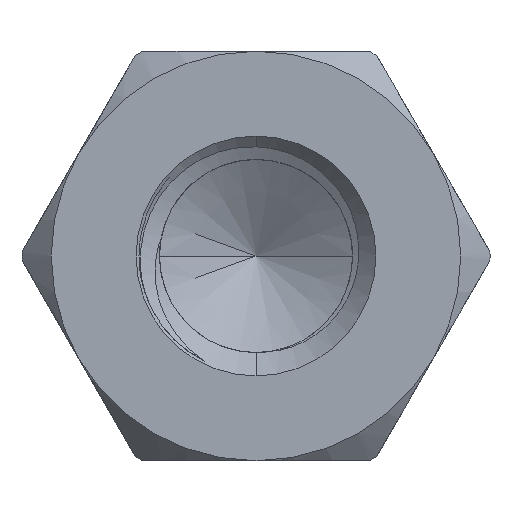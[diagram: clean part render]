
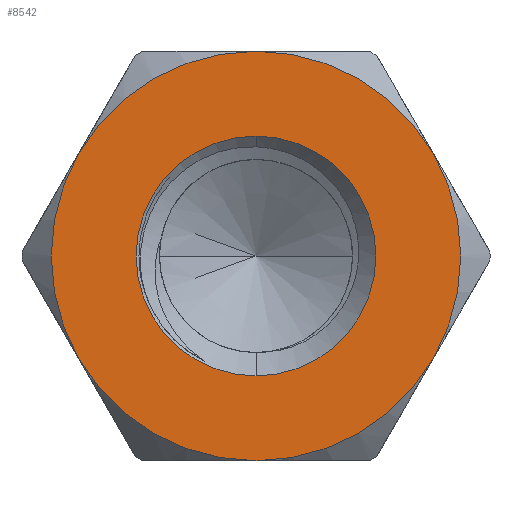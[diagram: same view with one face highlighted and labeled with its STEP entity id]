
A CAD part, front view. The second image highlights one B-rep face of the part: STEP entity #8542.
In plain terms, the highlighted planar face has unit normal (0, -1, 0).
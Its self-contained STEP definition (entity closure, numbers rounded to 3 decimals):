
#112 = EDGE_CURVE ( 'NONE', #772, #9792, #4046, .T. ) ;
#492 = CARTESIAN_POINT ( 'NONE',  ( -3.031, 0., -1.75 ) ) ;
#641 = VERTEX_POINT ( 'NONE', #1994 ) ;
#772 = VERTEX_POINT ( 'NONE', #3155 ) ;
#799 = CARTESIAN_POINT ( 'NONE',  ( 3.031, 0., -1.75 ) ) ;
#1050 = CARTESIAN_POINT ( 'NONE',  ( 0., 0., 0. ) ) ;
#1069 = EDGE_CURVE ( 'NONE', #3714, #772, #2153, .T. ) ;
#1330 = ORIENTED_EDGE ( 'NONE', *, *, #3862, .T. ) ;
#1585 = FACE_OUTER_BOUND ( 'NONE', #8614, .T. ) ;
#1620 = DIRECTION ( 'NONE',  ( 0., -1., 0. ) ) ;
#1624 = AXIS2_PLACEMENT_3D ( 'NONE', #4197, #5796, #6621 ) ;
#1692 = VERTEX_POINT ( 'NONE', #5052 ) ;
#1866 = CIRCLE ( 'NONE', #8171, 2.05 ) ;
#1994 = CARTESIAN_POINT ( 'NONE',  ( 0., 0., -2.05 ) ) ;
#2047 = VERTEX_POINT ( 'NONE', #6458 ) ;
#2153 = CIRCLE ( 'NONE', #1624, 3.5 ) ;
#2326 = AXIS2_PLACEMENT_3D ( 'NONE', #2462, #6443, #7154 ) ;
#2368 = CIRCLE ( 'NONE', #10025, 3.5 ) ;
#2380 = AXIS2_PLACEMENT_3D ( 'NONE', #4233, #3458, #9239 ) ;
#2442 = DIRECTION ( 'NONE',  ( 0., 0., 1. ) ) ;
#2462 = CARTESIAN_POINT ( 'NONE',  ( 0., 0., 0. ) ) ;
#2888 = EDGE_CURVE ( 'NONE', #9792, #2047, #5763, .T. ) ;
#3155 = CARTESIAN_POINT ( 'NONE',  ( 0., 0., -3.5 ) ) ;
#3233 = DIRECTION ( 'NONE',  ( 0., -1., 0. ) ) ;
#3254 = ORIENTED_EDGE ( 'NONE', *, *, #4112, .F. ) ;
#3266 = CARTESIAN_POINT ( 'NONE',  ( 0., 0., 0. ) ) ;
#3458 = DIRECTION ( 'NONE',  ( 0., -1., 0. ) ) ;
#3482 = CARTESIAN_POINT ( 'NONE',  ( -3.031, 0., 1.75 ) ) ;
#3630 = ORIENTED_EDGE ( 'NONE', *, *, #9209, .T. ) ;
#3713 = CARTESIAN_POINT ( 'NONE',  ( 0., 0., 0. ) ) ;
#3714 = VERTEX_POINT ( 'NONE', #492 ) ;
#3862 = EDGE_CURVE ( 'NONE', #2047, #1692, #2368, .T. ) ;
#3872 = AXIS2_PLACEMENT_3D ( 'NONE', #3713, #10222, #10264 ) ;
#3975 = CIRCLE ( 'NONE', #2326, 2.05 ) ;
#4046 = CIRCLE ( 'NONE', #10048, 3.5 ) ;
#4060 = ORIENTED_EDGE ( 'NONE', *, *, #112, .T. ) ;
#4112 = EDGE_CURVE ( 'NONE', #641, #10295, #1866, .T. ) ;
#4197 = CARTESIAN_POINT ( 'NONE',  ( 0., 0., 0. ) ) ;
#4233 = CARTESIAN_POINT ( 'NONE',  ( 0., 0., 0. ) ) ;
#4624 = CIRCLE ( 'NONE', #8666, 3.5 ) ;
#4643 = EDGE_LOOP ( 'NONE', ( #3254, #9387 ) ) ;
#4953 = CARTESIAN_POINT ( 'NONE',  ( 0., 0., 0. ) ) ;
#5019 = EDGE_CURVE ( 'NONE', #6410, #3714, #4624, .T. ) ;
#5052 = CARTESIAN_POINT ( 'NONE',  ( 0., 0., 3.5 ) ) ;
#5319 = ORIENTED_EDGE ( 'NONE', *, *, #1069, .T. ) ;
#5763 = CIRCLE ( 'NONE', #9191, 3.5 ) ;
#5790 = CARTESIAN_POINT ( 'NONE',  ( 0., 0., 0. ) ) ;
#5796 = DIRECTION ( 'NONE',  ( 0., -1., 0. ) ) ;
#6244 = FACE_BOUND ( 'NONE', #4643, .T. ) ;
#6343 = CARTESIAN_POINT ( 'NONE',  ( 0., 0., 0. ) ) ;
#6410 = VERTEX_POINT ( 'NONE', #3482 ) ;
#6443 = DIRECTION ( 'NONE',  ( 0., -1., 0. ) ) ;
#6458 = CARTESIAN_POINT ( 'NONE',  ( 3.031, 0., 1.75 ) ) ;
#6466 = DIRECTION ( 'NONE',  ( 0., 0., -1. ) ) ;
#6502 = ORIENTED_EDGE ( 'NONE', *, *, #5019, .T. ) ;
#6621 = DIRECTION ( 'NONE',  ( 0., 0., 1. ) ) ;
#6783 = ORIENTED_EDGE ( 'NONE', *, *, #2888, .T. ) ;
#7154 = DIRECTION ( 'NONE',  ( 0., 0., -1. ) ) ;
#7251 = DIRECTION ( 'NONE',  ( 0., -1., 0. ) ) ;
#7529 = CARTESIAN_POINT ( 'NONE',  ( 0., 0., 2.05 ) ) ;
#8171 = AXIS2_PLACEMENT_3D ( 'NONE', #1050, #9154, #9949 ) ;
#8542 = ADVANCED_FACE ( 'NONE', ( #6244, #1585 ), #9282, .F. ) ;
#8614 = EDGE_LOOP ( 'NONE', ( #1330, #3630, #6502, #5319, #4060, #6783 ) ) ;
#8666 = AXIS2_PLACEMENT_3D ( 'NONE', #4953, #8888, #2442 ) ;
#8888 = DIRECTION ( 'NONE',  ( 0., -1., 0. ) ) ;
#9017 = DIRECTION ( 'NONE',  ( 0., 0., 1. ) ) ;
#9154 = DIRECTION ( 'NONE',  ( 0., -1., 0. ) ) ;
#9191 = AXIS2_PLACEMENT_3D ( 'NONE', #5790, #7251, #9017 ) ;
#9209 = EDGE_CURVE ( 'NONE', #1692, #6410, #10361, .T. ) ;
#9239 = DIRECTION ( 'NONE',  ( 0., 0., 1. ) ) ;
#9282 = PLANE ( 'NONE',  #3872 ) ;
#9387 = ORIENTED_EDGE ( 'NONE', *, *, #9886, .F. ) ;
#9647 = DIRECTION ( 'NONE',  ( 0., 0., 1. ) ) ;
#9792 = VERTEX_POINT ( 'NONE', #799 ) ;
#9886 = EDGE_CURVE ( 'NONE', #10295, #641, #3975, .T. ) ;
#9949 = DIRECTION ( 'NONE',  ( 0., 0., -1. ) ) ;
#10025 = AXIS2_PLACEMENT_3D ( 'NONE', #6343, #1620, #9647 ) ;
#10048 = AXIS2_PLACEMENT_3D ( 'NONE', #3266, #3233, #6466 ) ;
#10222 = DIRECTION ( 'NONE',  ( 0., 1., 0. ) ) ;
#10264 = DIRECTION ( 'NONE',  ( 0., 0., 1. ) ) ;
#10295 = VERTEX_POINT ( 'NONE', #7529 ) ;
#10361 = CIRCLE ( 'NONE', #2380, 3.5 ) ;
